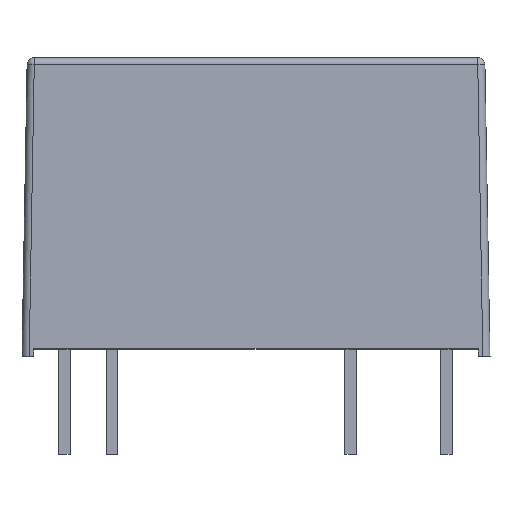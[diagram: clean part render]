
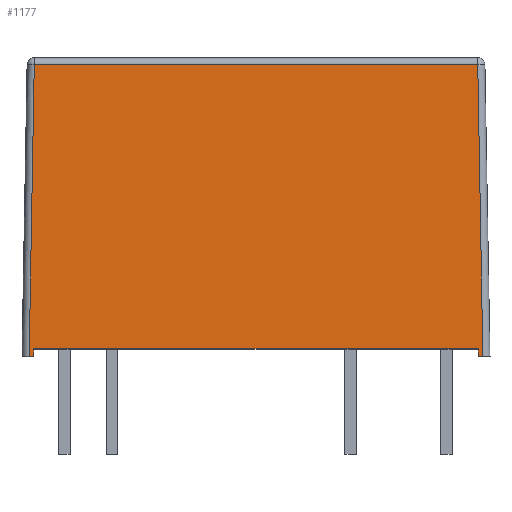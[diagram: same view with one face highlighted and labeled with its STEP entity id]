
A CAD part, top view. The second image highlights one B-rep face of the part: STEP entity #1177.
In plain terms, the highlighted planar face has unit normal (0, 0.018, 1).
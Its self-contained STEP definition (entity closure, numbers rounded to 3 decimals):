
#26 = VERTEX_POINT ( 'NONE', #244 ) ;
#32 = LINE ( 'NONE', #420, #1057 ) ;
#47 = VECTOR ( 'NONE', #742, 1000. ) ;
#81 = ORIENTED_EDGE ( 'NONE', *, *, #1155, .T. ) ;
#95 = LINE ( 'NONE', #511, #403 ) ;
#113 = VERTEX_POINT ( 'NONE', #120 ) ;
#120 = CARTESIAN_POINT ( 'NONE',  ( 9.5, 0., 4.95 ) ) ;
#126 = CARTESIAN_POINT ( 'NONE',  ( -9.8, 0., 4.95 ) ) ;
#133 = EDGE_CURVE ( 'NONE', #609, #113, #848, .T. ) ;
#136 = LINE ( 'NONE', #1058, #751 ) ;
#140 = VECTOR ( 'NONE', #1293, 1000. ) ;
#150 = VECTOR ( 'NONE', #1032, 1000. ) ;
#152 = DIRECTION ( 'NONE',  ( 1., 0., 0. ) ) ;
#171 = FACE_OUTER_BOUND ( 'NONE', #1494, .T. ) ;
#244 = CARTESIAN_POINT ( 'NONE',  ( -9.3, 0.3, 4.945 ) ) ;
#298 = EDGE_CURVE ( 'NONE', #1152, #358, #32, .T. ) ;
#355 = VECTOR ( 'NONE', #740, 1000. ) ;
#358 = VERTEX_POINT ( 'NONE', #1439 ) ;
#366 = VERTEX_POINT ( 'NONE', #1447 ) ;
#386 = LINE ( 'NONE', #1164, #150 ) ;
#397 = ORIENTED_EDGE ( 'NONE', *, *, #133, .T. ) ;
#403 = VECTOR ( 'NONE', #739, 1000. ) ;
#420 = CARTESIAN_POINT ( 'NONE',  ( -9.5, -0.005, 4.95 ) ) ;
#439 = EDGE_CURVE ( 'NONE', #358, #632, #1129, .T. ) ;
#456 = ORIENTED_EDGE ( 'NONE', *, *, #1060, .T. ) ;
#483 = CARTESIAN_POINT ( 'NONE',  ( -9.8, 0., 4.95 ) ) ;
#493 = ORIENTED_EDGE ( 'NONE', *, *, #835, .T. ) ;
#502 = CARTESIAN_POINT ( 'NONE',  ( -9.3, 0., 4.95 ) ) ;
#511 = CARTESIAN_POINT ( 'NONE',  ( -9.8, 12.205, 4.737 ) ) ;
#609 = VERTEX_POINT ( 'NONE', #998 ) ;
#632 = VERTEX_POINT ( 'NONE', #502 ) ;
#727 = PLANE ( 'NONE',  #774 ) ;
#736 = DIRECTION ( 'NONE',  ( 0., 0.017, 1. ) ) ;
#739 = DIRECTION ( 'NONE',  ( -1., 0., 0. ) ) ;
#740 = DIRECTION ( 'NONE',  ( 0., 1., -0.017 ) ) ;
#742 = DIRECTION ( 'NONE',  ( 1., 0., 0. ) ) ;
#751 = VECTOR ( 'NONE', #945, 1000. ) ;
#770 = VERTEX_POINT ( 'NONE', #1180 ) ;
#774 = AXIS2_PLACEMENT_3D ( 'NONE', #1321, #736, #857 ) ;
#835 = EDGE_CURVE ( 'NONE', #366, #1152, #95, .T. ) ;
#848 = LINE ( 'NONE', #126, #140 ) ;
#857 = DIRECTION ( 'NONE',  ( 0., -1., 0.017 ) ) ;
#864 = EDGE_CURVE ( 'NONE', #26, #770, #955, .T. ) ;
#872 = ORIENTED_EDGE ( 'NONE', *, *, #864, .T. ) ;
#883 = ORIENTED_EDGE ( 'NONE', *, *, #298, .T. ) ;
#930 = ORIENTED_EDGE ( 'NONE', *, *, #439, .T. ) ;
#945 = DIRECTION ( 'NONE',  ( 0., -1., 0.017 ) ) ;
#955 = LINE ( 'NONE', #979, #1073 ) ;
#974 = CARTESIAN_POINT ( 'NONE',  ( -9.3, 0., 4.95 ) ) ;
#979 = CARTESIAN_POINT ( 'NONE',  ( -9.8, 0.3, 4.945 ) ) ;
#985 = EDGE_CURVE ( 'NONE', #113, #366, #386, .T. ) ;
#990 = DIRECTION ( 'NONE',  ( -0.017, -1., 0.017 ) ) ;
#998 = CARTESIAN_POINT ( 'NONE',  ( 9.3, 0., 4.95 ) ) ;
#1032 = DIRECTION ( 'NONE',  ( -0.017, 1., -0.017 ) ) ;
#1057 = VECTOR ( 'NONE', #990, 1000. ) ;
#1058 = CARTESIAN_POINT ( 'NONE',  ( 9.3, 0., 4.95 ) ) ;
#1060 = EDGE_CURVE ( 'NONE', #770, #609, #136, .T. ) ;
#1073 = VECTOR ( 'NONE', #152, 1000. ) ;
#1129 = LINE ( 'NONE', #483, #47 ) ;
#1152 = VERTEX_POINT ( 'NONE', #1450 ) ;
#1155 = EDGE_CURVE ( 'NONE', #632, #26, #1342, .T. ) ;
#1164 = CARTESIAN_POINT ( 'NONE',  ( 9.494, 0.337, 4.944 ) ) ;
#1177 = ADVANCED_FACE ( 'NONE', ( #171 ), #727, .T. ) ;
#1180 = CARTESIAN_POINT ( 'NONE',  ( 9.3, 0.3, 4.945 ) ) ;
#1293 = DIRECTION ( 'NONE',  ( 1., 0., 0. ) ) ;
#1321 = CARTESIAN_POINT ( 'NONE',  ( -9.8, 0., 4.95 ) ) ;
#1342 = LINE ( 'NONE', #974, #355 ) ;
#1383 = ORIENTED_EDGE ( 'NONE', *, *, #985, .T. ) ;
#1439 = CARTESIAN_POINT ( 'NONE',  ( -9.5, 0., 4.95 ) ) ;
#1447 = CARTESIAN_POINT ( 'NONE',  ( 9.287, 12.205, 4.737 ) ) ;
#1450 = CARTESIAN_POINT ( 'NONE',  ( -9.287, 12.205, 4.737 ) ) ;
#1494 = EDGE_LOOP ( 'NONE', ( #397, #1383, #493, #883, #930, #81, #872, #456 ) ) ;
